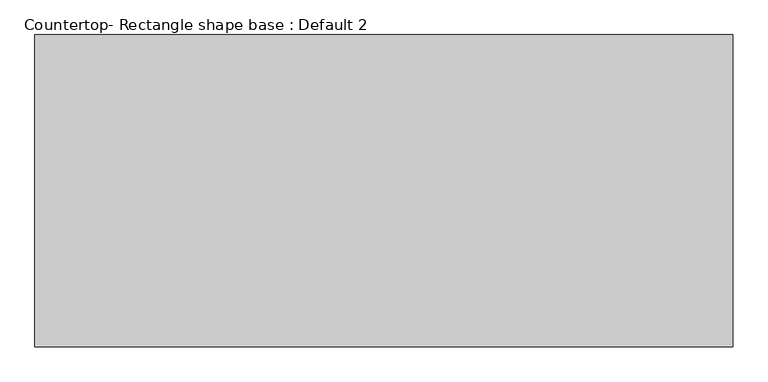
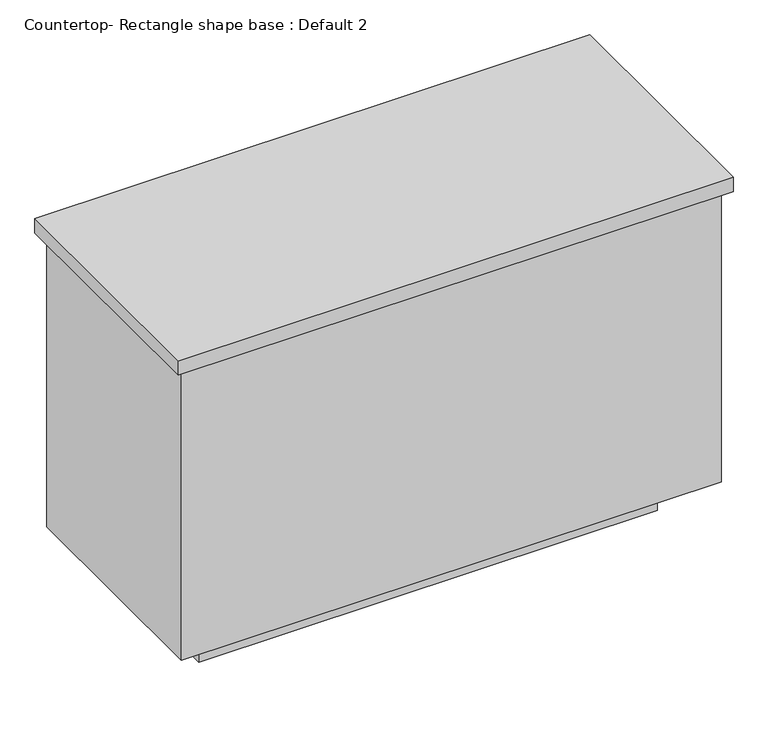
"""IFC4 building model written with IfcOpenShell, lengths in millimetres: proxy geometry, Countertop- Rectangle shape base : Default 2."""

from ifc_helpers import new_model, si_unit, frame, origin, origin_with_axes, place, context, project, spatial, polyline, outline, extrude, source, transform, mapped, element, save


def countertop_rectangle_shape_base_default_2_ecc6f1f0(model_context):
    return source(origin(), model_context, "Body", "SweptSolid", [
        extrude(outline(polyline([(66.675, 69.85), (66.675, 692.15), (1457.325, 692.15), (1457.325, 69.85), (66.675, 69.85)])), frame((0.0, 0.0, 876.3), z_axis=(0.0, 0.0, 1.0), x_axis=(1.0, 0.0, 0.0)), (0.0, 0.0, 1.0), 38.1),
        extrude(outline(polyline([(1438.275, 673.1), (1438.275, 88.9), (85.725, 88.9), (85.725, 673.1), (1438.275, 673.1)])), frame((0.0, 0.0, 101.6), z_axis=(0.0, 0.0, 1.0), x_axis=(1.0, 0.0, 0.0)), (0.0, 0.0, 1.0), 774.7),
        extrude(outline(polyline([(1336.675, 571.5), (1336.675, 190.5), (187.325, 190.5), (187.325, 571.5), (1336.675, 571.5)])), origin_with_axes(), (0.0, 0.0, 1.0), 101.6),
    ])


if __name__ == "__main__":
    model = new_model("IFC4")
    model_context = context("Model", 3, world=origin())
    ifc_project = project(units=[si_unit("LENGTHUNIT", "METRE", prefix="MILLI")], contexts=[model_context])
    site = spatial("IfcSite", under=ifc_project)
    building = spatial("IfcBuilding", under=site)
    placement = place(None, origin())
    countertop_rectangle_shape_base_default_2_shape = countertop_rectangle_shape_base_default_2_ecc6f1f0(model_context)
    element("IfcBuildingElementProxy", 1, Name="Countertop- Rectangle shape base : Default 2", ObjectType="Countertop- Rectangle shape base : Default 2", at=placement, inside=building, context=model_context, shape_type="MappedRepresentation", body=[
        mapped(countertop_rectangle_shape_base_default_2_shape, transform((0.0, 0.0, 0.0), x_axis=(1.0, 0.0, 0.0), y_axis=(0.0, 1.0, 0.0), z_axis=(0.0, 0.0, 1.0))),
    ])
    save(model, "model.ifc")
